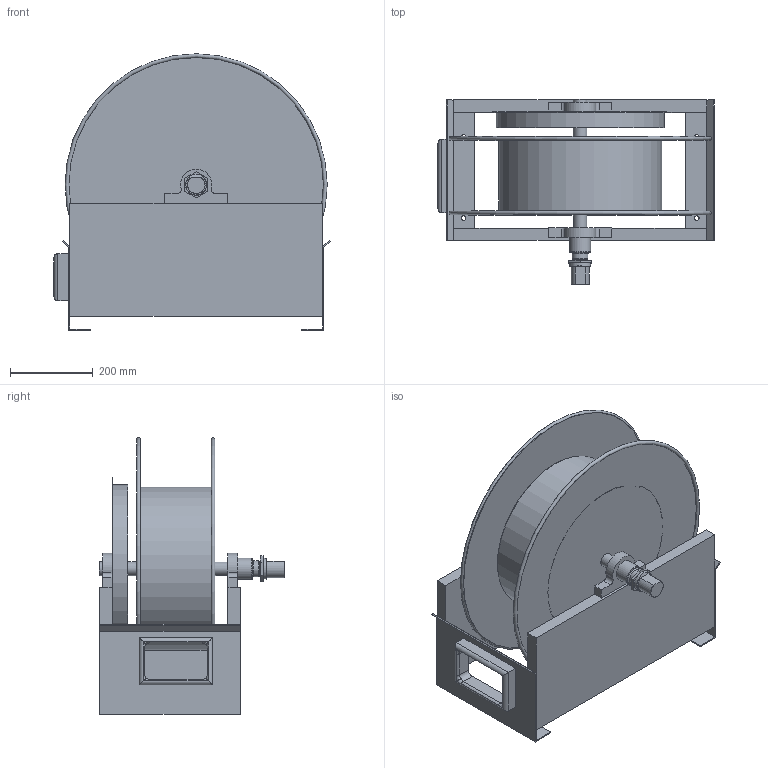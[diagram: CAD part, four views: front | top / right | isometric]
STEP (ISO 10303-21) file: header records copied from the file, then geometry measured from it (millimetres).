
FILE_DESCRIPTION( ( 'Unknown' ), '1' );
FILE_NAME( 'J:/NPD/RE 12893 3D WEB MODELS/9000 SERIES/D9305 OLPBW.stp', 'Unknown', ( 'Unknown' ), ( 'Unknown' ), 'PSStep 10.1', 'Unknown', ' ' );
FILE_SCHEMA( ( 'AUTOMOTIVE_DESIGN { 1 0 10303 214 1 1 1 1 }' ) );
Length unit declared in the file: millimetre
Products named in the file (3): 1; 2; 3
Bounding box: 668.91 x 449.11 x 669.92 mm (x, y, z)
Volume: 17804043.5 mm3; surface area: 3265087.5 mm2
Topology: 3 solids, 6 shells, 147 faces, 338 edges, 219 vertices
Faces by surface type: plane 85, cylinder 39, torus 13, bspline 8, cone 2
Full cylindrical faces by diameter (mm): 11.1 x4, 25.4 x1, 26.988 x1, 27.257 x2, 32.512 x1, 33.039 x2, 33.528 x2, 38.1 x1, 50.8 x2, 391.429 x1, 395.224 x1, 406.4 x1, 444.5 x1
Entity records: 6830 total; most frequent: CARTESIAN_POINT 2430, DIRECTION 668, ORIENTED_EDGE 590, EDGE_CURVE 295, AXIS2_PLACEMENT_3D 243, VERTEX_POINT 205, EDGE_LOOP 202, LINE 182
